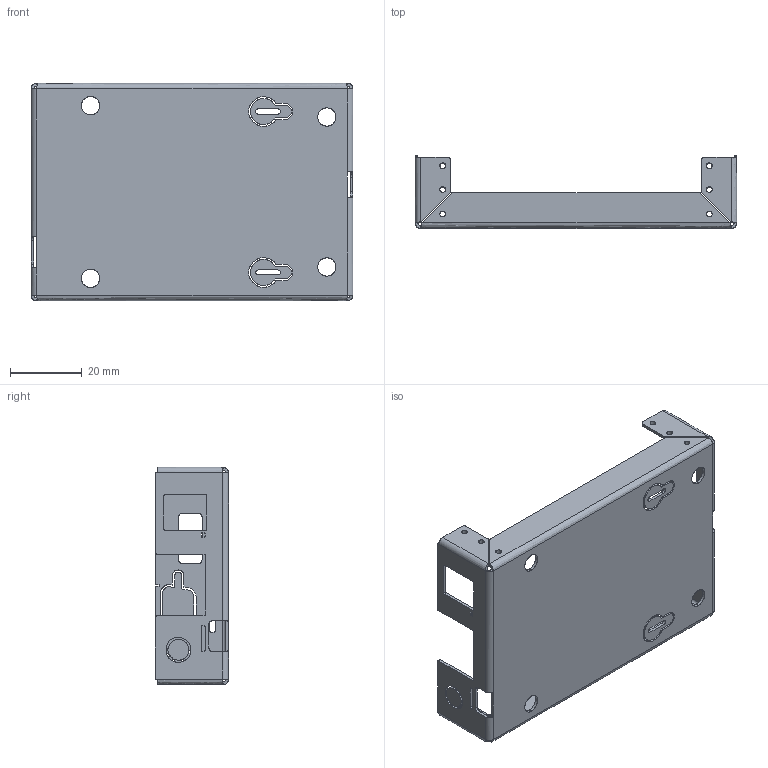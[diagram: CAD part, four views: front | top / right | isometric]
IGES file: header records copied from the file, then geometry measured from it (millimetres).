
Start section: SolidWorks IGES file using analytic representation for surfaces
Global section: file name: C:\Users\hans.brakeley\Desktop\Project Work\GIT\BB100\IGS\Chassis_Bottom.IGS; native system: SolidWorks 2013; preprocessor: SolidWorks 2013; author: hans.brakeley; date: 130710.140811; units: millimetre
Bounding box: 89.97 x 20.42 x 60.79 mm (x, y, z)
Surface area: 18715.7 mm2 (no closed solid volume)
Topology: 0 solids, 0 shells, 342 faces, 4624 edges, 4624 vertices
Faces by surface type: revolution 192, bspline 150
